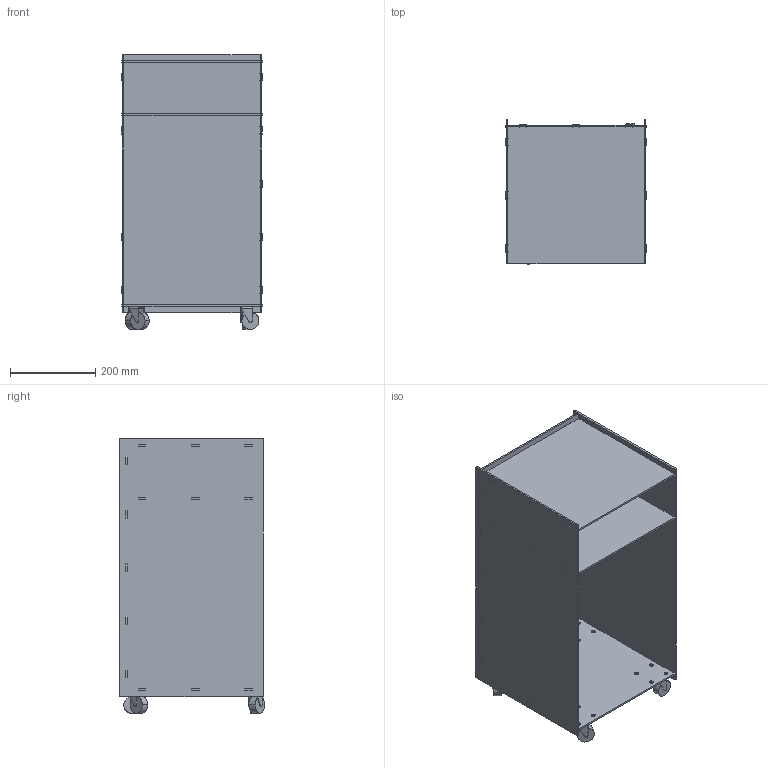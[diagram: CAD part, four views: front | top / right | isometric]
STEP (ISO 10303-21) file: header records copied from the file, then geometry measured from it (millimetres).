
FILE_DESCRIPTION(/* description */ (''),/* implementation_level */ '2;1');
FILE_NAME(/* name */ 'FRAMA_Rivet-Cart-3D',/* time_stamp */ '2025-10-21T16:38:56+02:00',/* author */ (''),/* organization */ (''),/* preprocessor_version */ 'ST-DEVELOPER v16.5',/* originating_system */ 'Rhino 7.38',/* authorisation */ '');
FILE_SCHEMA (('CONFIG_CONTROL_DESIGN'));
Length unit declared in the file: millimetre
Products named in the file (1): Document
Bounding box: 331.3 x 340.54 x 645.31 mm (x, y, z)
Volume: 3644303.1 mm3; surface area: 1904005.8 mm2
Topology: 6 solids, 90 shells, 554 faces, 1618 edges, 1156 vertices
Faces by surface type: plane 376, cylinder 130, bspline 48
Entity records: 18140 total; most frequent: CARTESIAN_POINT 7505, ORIENTED_EDGE 2956, EDGE_CURVE 1618, B_SPLINE_CURVE_WITH_KNOTS 1230, VERTEX_POINT 1156, EDGE_LOOP 660, ADVANCED_FACE 554, FACE_OUTER_BOUND 554
